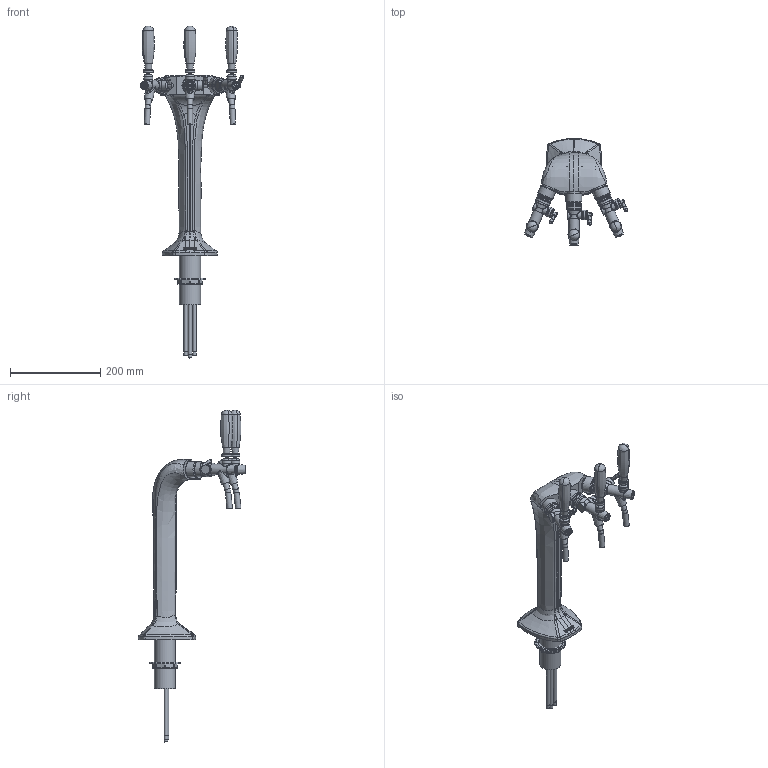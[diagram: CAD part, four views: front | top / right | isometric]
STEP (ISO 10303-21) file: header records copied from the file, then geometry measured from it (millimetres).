
FILE_DESCRIPTION(/* description */ ('STEP AP214'),/* implementation_level */ '2;1');
FILE_NAME(/* name */ '6824649941c09c407e974097',/* time_stamp */ '2025-05-14T09:38:37Z',/* author */ (''),/* organization */ (''),/* preprocessor_version */ 'ST-DEVELOPER v20',/* originating_system */ 'ONSHAPE BY PTC INC, 1.197',/* authorisation */ ' ');
FILE_SCHEMA (('AUTOMOTIVE_DESIGN {1 0 10303 214 3 1 1}'));
Products named in the file (68): C3
Bounding box: 229.27 x 238.17 x 737.1 mm (x, y, z)
Volume: 568970.9 mm3; surface area: 437398.1 mm2
Topology: 60 solids, 68 shells, 2060 faces, 4941 edges, 3063 vertices
Faces by surface type: bspline 696, plane 598, cylinder 411, torus 156, cone 123, sphere 76
Full cylindrical faces by diameter (mm): 0.313 x2, 0.967 x1, 1.433 x1, 2.167 x1, 2.633 x1, 4 x3, 4.2 x3, 4.567 x1, 5 x7, 5.033 x1, 7 x3, 8 x14, 8.376 x3, 9.303 x3, 10 x15, 10.5 x3, 10.7 x3, 11.02 x3, 11.4 x4, 11.9 x3, 12 x9, 12.7 x3, 13 x3, 13.2 x3, 13.5 x2, 14 x5, 14.2 x4, 15 x3, 15.1 x3, 16.9 x3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
Entity records: 116487 total; most frequent: CARTESIAN_POINT 74687, ORIENTED_EDGE 8831, DIRECTION 6625, EDGE_CURVE 4436, VERTEX_POINT 2949, AXIS2_PLACEMENT_3D 2861, FACE_BOUND 2569, EDGE_LOOP 2560
